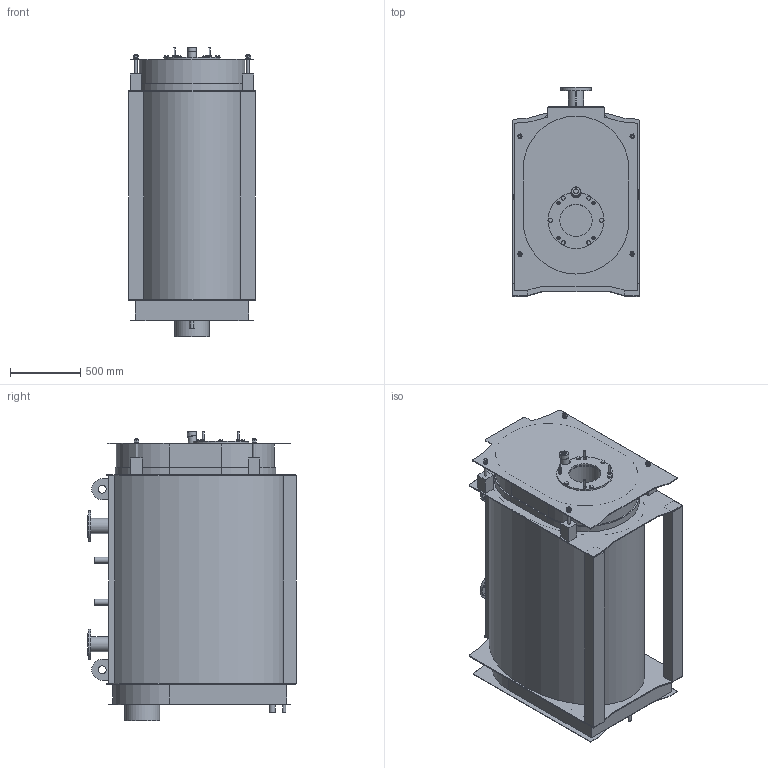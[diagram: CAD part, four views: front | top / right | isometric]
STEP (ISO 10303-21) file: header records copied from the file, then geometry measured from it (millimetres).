
FILE_DESCRIPTION (( 'STEP AP214' ), '1' );
FILE_NAME ('Ultratherm 500.STEP', '2019-08-22T11:31:20', ( '' ), ( '' ), 'SwSTEP 2.0', 'SolidWorks 2016', '' );
FILE_SCHEMA (( 'AUTOMOTIVE_DESIGN' ));
Length unit declared in the file: millimetre
Products named in the file (2): Ultratherm 500
Bounding box: 900 x 1488 x 2063.81 mm (x, y, z)
Volume: 1638855298.1 mm3; surface area: 24931789.7 mm2
Topology: 71 solids, 71 shells, 466 faces, 956 edges, 635 vertices
Faces by surface type: plane 331, cylinder 122, cone 12, bspline 1
Full cylindrical faces by diameter (mm): 12 x4, 14 x4, 15 x1, 18 x8, 20 x8, 21 x1, 21.203 x8, 24 x4, 28 x6, 30.6 x4, 34 x1, 36 x1, 38 x2, 42 x3, 55 x2, 60 x1, 65 x1, 100 x2, 108 x2, 109 x4, 215 x1, 230 x6, 244 x5, 250 x1
Entity records: 12817 total; most frequent: CARTESIAN_POINT 2238, DIRECTION 2031, ORIENTED_EDGE 1718, EDGE_CURVE 859, AXIS2_PLACEMENT_3D 723, EDGE_LOOP 643, VERTEX_POINT 630, LINE 585
